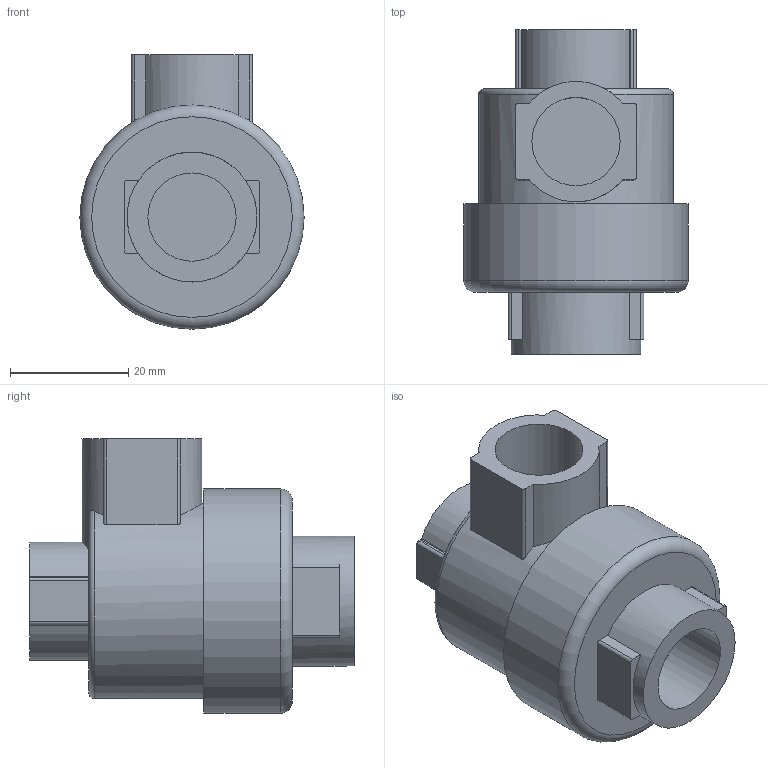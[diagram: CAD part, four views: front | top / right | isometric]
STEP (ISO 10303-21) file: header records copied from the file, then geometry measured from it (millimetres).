
FILE_DESCRIPTION( ( 'STEP AP214' ), '1' );
FILE_NAME( 'C:/Users/emc02044/Desktop/KKP/KKP-10.stp', '2026-08-05T04:43:00', ( 'License CC BY-ND 4.0' ), ( 'CADENAS' ), ' ', 'PARTsolutions', ' ' );
FILE_SCHEMA( ( 'AUTOMOTIVE_DESIGN { 1 0 10303 214 1 1 1 1 }' ) );
Length unit declared in the file: millimetre
Products named in the file (1): _KKP-10
Bounding box: 38 x 55 x 46.5 mm (x, y, z)
Volume: 38101.7 mm3; surface area: 10325.6 mm2
Topology: 1 solids, 1 shells, 59 faces, 152 edges, 101 vertices
Faces by surface type: plane 30, cylinder 27, torus 2
Full cylindrical faces by diameter (mm): 8 x1, 14.95 x3, 22 x1, 33 x1, 38 x1
Entity records: 2330 total; most frequent: CARTESIAN_POINT 405, DIRECTION 310, ORIENTED_EDGE 284, EDGE_CURVE 142, AXIS2_PLACEMENT_3D 118, VERTEX_POINT 99, LINE 74, VECTOR 74
